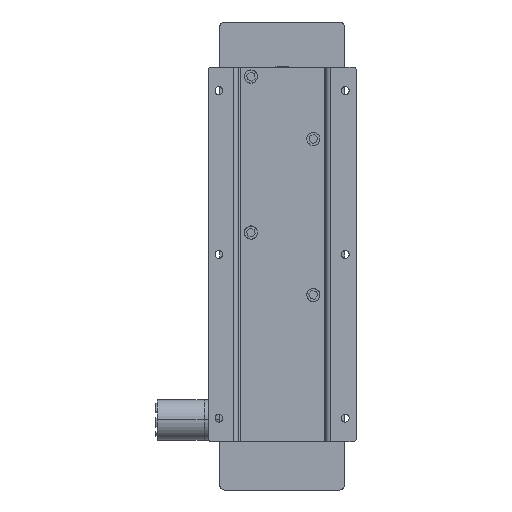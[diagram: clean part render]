
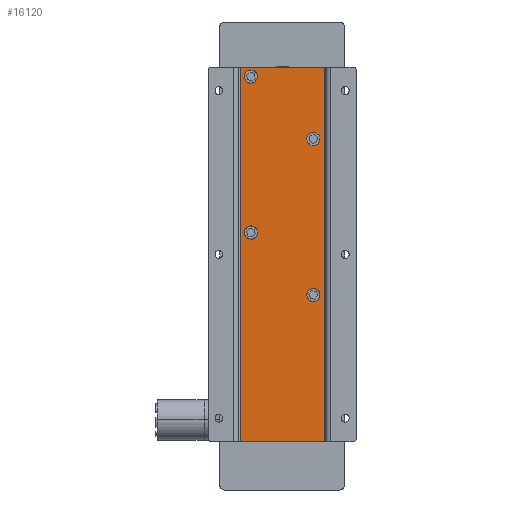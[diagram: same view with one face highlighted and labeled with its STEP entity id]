
A CAD part, left-side view. The second image highlights one B-rep face of the part: STEP entity #16120.
In plain terms, the highlighted planar face has unit normal (-1, 0, 0) as drawn and (0, 0, -1) by its records, which use the part's own axes.
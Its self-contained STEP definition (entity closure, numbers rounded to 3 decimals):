
#386 = DIRECTION ( 'NONE',  ( 1., 0., 0. ) ) ;
#673 = ORIENTED_EDGE ( 'NONE', *, *, #111110, .F. ) ;
#2614 = DIRECTION ( 'NONE',  ( -1., 0., 0. ) ) ;
#2770 = LINE ( 'NONE', #94562, #44954 ) ;
#3879 = AXIS2_PLACEMENT_3D ( 'NONE', #26683, #73772, #91544 ) ;
#4758 = ORIENTED_EDGE ( 'NONE', *, *, #23814, .F. ) ;
#6480 = CARTESIAN_POINT ( 'NONE',  ( 22.75, -20., -2. ) ) ;
#7824 = CARTESIAN_POINT ( 'NONE',  ( -114., 20., -2. ) ) ;
#8792 = DIRECTION ( 'NONE',  ( 0., -1., 0. ) ) ;
#10637 = ORIENTED_EDGE ( 'NONE', *, *, #81190, .T. ) ;
#12844 = CIRCLE ( 'NONE', #59742, 3.25 ) ;
#14412 = CIRCLE ( 'NONE', #84805, 3.25 ) ;
#15962 = CIRCLE ( 'NONE', #68733, 3.25 ) ;
#16120 = ADVANCED_FACE ( 'NONE', ( #102842, #39208, #64881, #67343, #46531 ), #85132, .F. ) ;
#17507 = VECTOR ( 'NONE', #8792, 1000. ) ;
#17658 = ORIENTED_EDGE ( 'NONE', *, *, #110922, .T. ) ;
#18850 = VERTEX_POINT ( 'NONE', #41222 ) ;
#19006 = CARTESIAN_POINT ( 'NONE',  ( 0., 0., -2. ) ) ;
#20615 = DIRECTION ( 'NONE',  ( 0., 0., 1. ) ) ;
#21536 = CARTESIAN_POINT ( 'NONE',  ( -70.75, -20., -2. ) ) ;
#23814 = EDGE_CURVE ( 'NONE', #26477, #40786, #95622, .T. ) ;
#24097 = VERTEX_POINT ( 'NONE', #29230 ) ;
#26477 = VERTEX_POINT ( 'NONE', #91879 ) ;
#26683 = CARTESIAN_POINT ( 'NONE',  ( 26., -20., -2. ) ) ;
#27351 = ORIENTED_EDGE ( 'NONE', *, *, #108943, .T. ) ;
#28066 = EDGE_CURVE ( 'NONE', #38831, #54221, #87906, .T. ) ;
#28182 = DIRECTION ( 'NONE',  ( 1., 0., 0. ) ) ;
#29230 = CARTESIAN_POINT ( 'NONE',  ( 120., -27., -2. ) ) ;
#33228 = CIRCLE ( 'NONE', #3879, 3.25 ) ;
#33384 = VERTEX_POINT ( 'NONE', #38411 ) ;
#36397 = DIRECTION ( 'NONE',  ( 0., 0., 1. ) ) ;
#36871 = EDGE_CURVE ( 'NONE', #84583, #38027, #12844, .T. ) ;
#38027 = VERTEX_POINT ( 'NONE', #64399 ) ;
#38411 = CARTESIAN_POINT ( 'NONE',  ( 29.25, -20., -2. ) ) ;
#38574 = DIRECTION ( 'NONE',  ( 1., 0., 0. ) ) ;
#38831 = VERTEX_POINT ( 'NONE', #101916 ) ;
#39208 = FACE_BOUND ( 'NONE', #115746, .T. ) ;
#39860 = VERTEX_POINT ( 'NONE', #41361 ) ;
#40144 = CARTESIAN_POINT ( 'NONE',  ( -17.25, 20., -2. ) ) ;
#40706 = DIRECTION ( 'NONE',  ( 0., 1., 0. ) ) ;
#40786 = VERTEX_POINT ( 'NONE', #55012 ) ;
#41222 = CARTESIAN_POINT ( 'NONE',  ( -120., -27., -2. ) ) ;
#41361 = CARTESIAN_POINT ( 'NONE',  ( -10.75, 20., -2. ) ) ;
#44423 = EDGE_LOOP ( 'NONE', ( #54935, #102538 ) ) ;
#44954 = VECTOR ( 'NONE', #40706, 1000. ) ;
#45598 = CARTESIAN_POINT ( 'NONE',  ( -14., 20., -2. ) ) ;
#46531 = FACE_OUTER_BOUND ( 'NONE', #70765, .T. ) ;
#47021 = DIRECTION ( 'NONE',  ( 1., 0., 0. ) ) ;
#47824 = VECTOR ( 'NONE', #2614, 1000. ) ;
#48570 = ORIENTED_EDGE ( 'NONE', *, *, #74321, .F. ) ;
#53448 = DIRECTION ( 'NONE',  ( 0., 0., 1. ) ) ;
#54172 = DIRECTION ( 'NONE',  ( 1., 0., 0. ) ) ;
#54221 = VERTEX_POINT ( 'NONE', #57730 ) ;
#54756 = CARTESIAN_POINT ( 'NONE',  ( -114., 20., -2. ) ) ;
#54935 = ORIENTED_EDGE ( 'NONE', *, *, #107266, .T. ) ;
#55012 = CARTESIAN_POINT ( 'NONE',  ( -120., 27., -2. ) ) ;
#55082 = ORIENTED_EDGE ( 'NONE', *, *, #115473, .T. ) ;
#56832 = EDGE_CURVE ( 'NONE', #24097, #26477, #2770, .T. ) ;
#57677 = CARTESIAN_POINT ( 'NONE',  ( 120., 27., -2. ) ) ;
#57730 = CARTESIAN_POINT ( 'NONE',  ( -117.25, 20., -2. ) ) ;
#59742 = AXIS2_PLACEMENT_3D ( 'NONE', #70024, #53448, #89583 ) ;
#60506 = AXIS2_PLACEMENT_3D ( 'NONE', #7824, #73881, #111202 ) ;
#64399 = CARTESIAN_POINT ( 'NONE',  ( -77.25, -20., -2. ) ) ;
#64881 = FACE_BOUND ( 'NONE', #81973, .T. ) ;
#67343 = FACE_BOUND ( 'NONE', #44423, .T. ) ;
#68733 = AXIS2_PLACEMENT_3D ( 'NONE', #119329, #20615, #386 ) ;
#70024 = CARTESIAN_POINT ( 'NONE',  ( -74., -20., -2. ) ) ;
#70765 = EDGE_LOOP ( 'NONE', ( #48570, #4758, #82419, #673 ) ) ;
#73005 = VECTOR ( 'NONE', #115784, 1000. ) ;
#73772 = DIRECTION ( 'NONE',  ( 0., 0., 1. ) ) ;
#73881 = DIRECTION ( 'NONE',  ( 0., 0., 1. ) ) ;
#74100 = VERTEX_POINT ( 'NONE', #40144 ) ;
#74321 = EDGE_CURVE ( 'NONE', #40786, #18850, #110394, .T. ) ;
#75241 = AXIS2_PLACEMENT_3D ( 'NONE', #54756, #36397, #54172 ) ;
#78472 = CARTESIAN_POINT ( 'NONE',  ( 120., -27., -2. ) ) ;
#80932 = EDGE_LOOP ( 'NONE', ( #110024, #10637 ) ) ;
#81190 = EDGE_CURVE ( 'NONE', #54221, #38831, #88908, .T. ) ;
#81973 = EDGE_LOOP ( 'NONE', ( #17658, #27351 ) ) ;
#82419 = ORIENTED_EDGE ( 'NONE', *, *, #56832, .F. ) ;
#83276 = AXIS2_PLACEMENT_3D ( 'NONE', #120501, #103946, #47021 ) ;
#84057 = CARTESIAN_POINT ( 'NONE',  ( -120., -27., -2. ) ) ;
#84583 = VERTEX_POINT ( 'NONE', #21536 ) ;
#84805 = AXIS2_PLACEMENT_3D ( 'NONE', #45598, #95612, #115178 ) ;
#85132 = PLANE ( 'NONE',  #85814 ) ;
#85814 = AXIS2_PLACEMENT_3D ( 'NONE', #19006, #102231, #38574 ) ;
#86770 = EDGE_CURVE ( 'NONE', #88938, #33384, #33228, .T. ) ;
#87906 = CIRCLE ( 'NONE', #60506, 3.25 ) ;
#88908 = CIRCLE ( 'NONE', #75241, 3.25 ) ;
#88938 = VERTEX_POINT ( 'NONE', #6480 ) ;
#89583 = DIRECTION ( 'NONE',  ( 1., 0., 0. ) ) ;
#91544 = DIRECTION ( 'NONE',  ( 1., 0., 0. ) ) ;
#91879 = CARTESIAN_POINT ( 'NONE',  ( 120., 27., -2. ) ) ;
#94562 = CARTESIAN_POINT ( 'NONE',  ( 120., -27., -2. ) ) ;
#95077 = CIRCLE ( 'NONE', #83276, 3.25 ) ;
#95612 = DIRECTION ( 'NONE',  ( 0., 0., 1. ) ) ;
#95622 = LINE ( 'NONE', #57677, #47824 ) ;
#97114 = CIRCLE ( 'NONE', #120508, 3.25 ) ;
#101047 = DIRECTION ( 'NONE',  ( 0., 0., 1. ) ) ;
#101916 = CARTESIAN_POINT ( 'NONE',  ( -110.75, 20., -2. ) ) ;
#102231 = DIRECTION ( 'NONE',  ( 0., 0., 1. ) ) ;
#102538 = ORIENTED_EDGE ( 'NONE', *, *, #86770, .T. ) ;
#102842 = FACE_BOUND ( 'NONE', #80932, .T. ) ;
#103946 = DIRECTION ( 'NONE',  ( 0., 0., 1. ) ) ;
#104440 = ORIENTED_EDGE ( 'NONE', *, *, #36871, .T. ) ;
#107266 = EDGE_CURVE ( 'NONE', #33384, #88938, #95077, .T. ) ;
#108399 = LINE ( 'NONE', #78472, #73005 ) ;
#108943 = EDGE_CURVE ( 'NONE', #74100, #39860, #15962, .T. ) ;
#110024 = ORIENTED_EDGE ( 'NONE', *, *, #28066, .T. ) ;
#110394 = LINE ( 'NONE', #84057, #17507 ) ;
#110922 = EDGE_CURVE ( 'NONE', #39860, #74100, #14412, .T. ) ;
#111110 = EDGE_CURVE ( 'NONE', #18850, #24097, #108399, .T. ) ;
#111202 = DIRECTION ( 'NONE',  ( 1., 0., 0. ) ) ;
#115178 = DIRECTION ( 'NONE',  ( 1., 0., 0. ) ) ;
#115473 = EDGE_CURVE ( 'NONE', #38027, #84583, #97114, .T. ) ;
#115746 = EDGE_LOOP ( 'NONE', ( #104440, #55082 ) ) ;
#115784 = DIRECTION ( 'NONE',  ( 1., 0., 0. ) ) ;
#119329 = CARTESIAN_POINT ( 'NONE',  ( -14., 20., -2. ) ) ;
#120501 = CARTESIAN_POINT ( 'NONE',  ( 26., -20., -2. ) ) ;
#120508 = AXIS2_PLACEMENT_3D ( 'NONE', #120607, #101047, #28182 ) ;
#120607 = CARTESIAN_POINT ( 'NONE',  ( -74., -20., -2. ) ) ;
